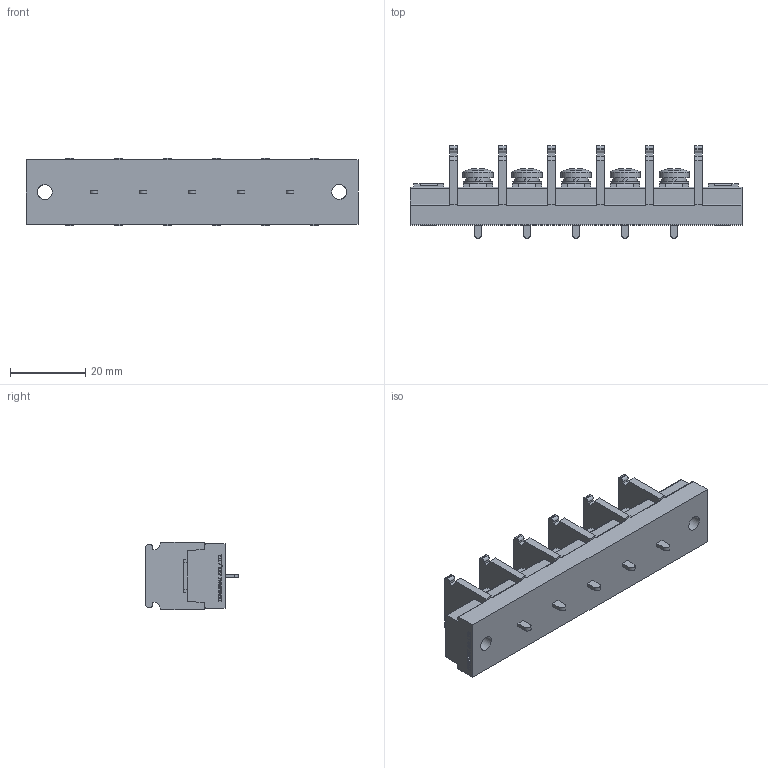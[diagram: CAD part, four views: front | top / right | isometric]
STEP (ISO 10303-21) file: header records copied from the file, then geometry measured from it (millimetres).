
FILE_DESCRIPTION(/* description */ ('Alibre Inc.'),/* implementation_level */ '2;1');
FILE_NAME(/* name */ 'export0',/* time_stamp */ '2016-08-02T19:22:45+09:00',/* author */ (''),/* organization */ (''),/* preprocessor_version */ 'ST-DEVELOPER v14',/* originating_system */ 'Alibre',/* authorisation */ '');
FILE_SCHEMA (('CONFIG_CONTROL_DESIGN'));
Length unit declared in the file: centimetre
Products named in the file (1): ID_1
Bounding box: 88 x 24.5 x 18 mm (x, y, z)
Volume: 17099.2 mm3; surface area: 9138.7 mm2
Topology: 1 solids, 38 shells, 1243 faces, 3271 edges, 2166 vertices
Faces by surface type: plane 900, bspline 208, cylinder 100, cone 25, sphere 5, torus 5
Full cylindrical faces by diameter (mm): 4 x9, 6.5 x5, 7.7 x5, 8 x5
Entity records: 36734 total; most frequent: CARTESIAN_POINT 8547, ORIENTED_EDGE 6446, DIRECTION 4182, EDGE_CURVE 3223, VECTOR 2388, LINE 2388, VERTEX_POINT 2147, EDGE_LOOP 1364
